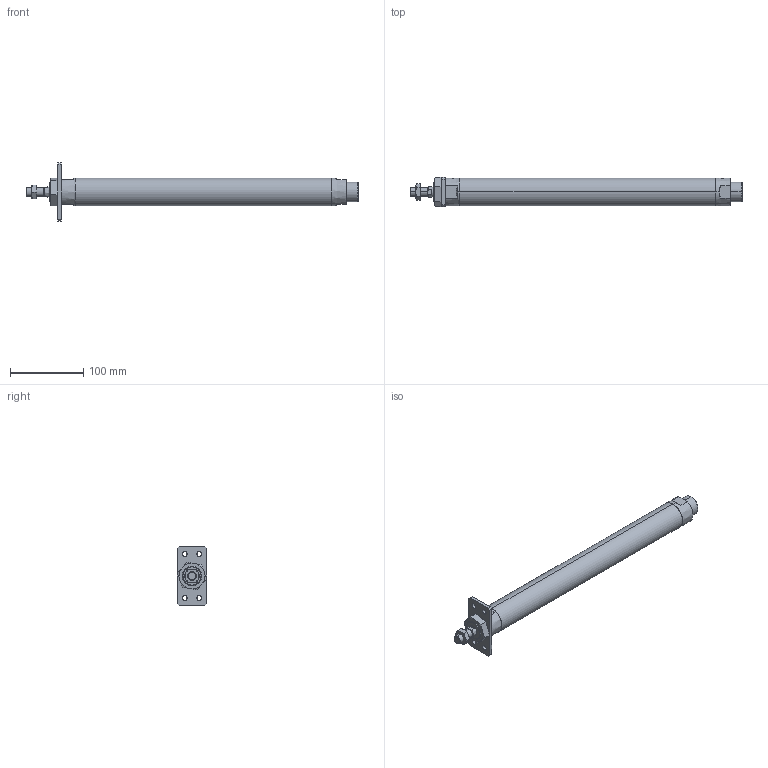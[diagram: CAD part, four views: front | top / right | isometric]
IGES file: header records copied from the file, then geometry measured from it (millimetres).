
Start section: SolidWorks IGES file using analytic representation for surfaces
Global section: file name: C:\Users\Toshiba\Desktop\J#2-32-300-A.IGS; native system: SolidWorks 2014; preprocessor: SolidWorks 2014; author: Toshiba; date: 160308.155101; units: millimetre
Bounding box: 453 x 40 x 80 mm (x, y, z)
Surface area: 64218.6 mm2 (no closed solid volume)
Topology: 0 solids, 0 shells, 114 faces, 2060 edges, 2056 vertices
Faces by surface type: bspline 67, revolution 47
